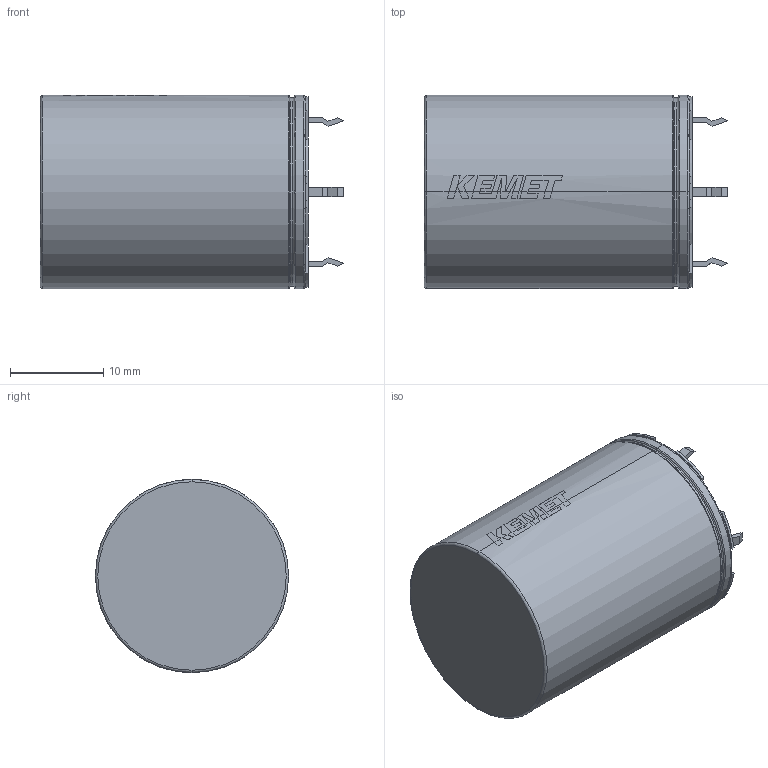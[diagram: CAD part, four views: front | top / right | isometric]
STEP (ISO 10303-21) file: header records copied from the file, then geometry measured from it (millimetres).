
FILE_DESCRIPTION (( 'STEP AP214' ), '1' );
FILE_NAME ('CAA_PEHD18_20X27_D20.7L28.7LL3.8F1.03.STEP', '2020-10-15T23:01:45', ( '' ), ( '' ), 'SwSTEP 2.0', 'SolidWorks 2014', '' );
FILE_SCHEMA (( 'AUTOMOTIVE_DESIGN' ));
Length unit declared in the file: millimetre
Products named in the file (1): CAA_PEHD18_20X27_D20.7L28.7LL3.8F1.03
Bounding box: 32.5 x 20.7 x 20.7 mm (x, y, z)
Volume: 9323.2 mm3; surface area: 3138.9 mm2
Topology: 1 solids, 1 shells, 217 faces, 638 edges, 406 vertices
Faces by surface type: plane 115, cylinder 59, bspline 31, torus 12
Entity records: 9840 total; most frequent: CARTESIAN_POINT 1852, ORIENTED_EDGE 1276, DIRECTION 1011, EDGE_CURVE 638, VERTEX_POINT 406, VECTOR 349, LINE 349, AXIS2_PLACEMENT_3D 331
